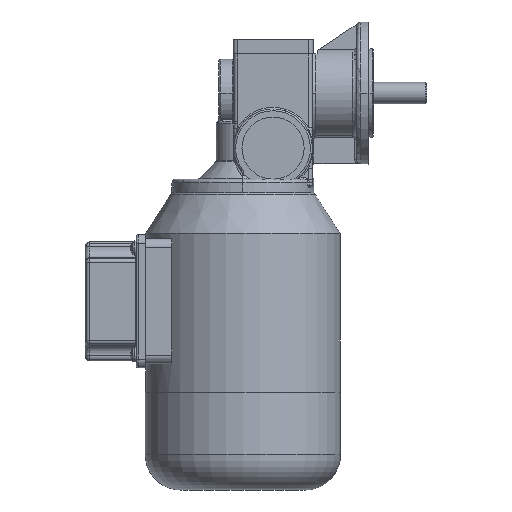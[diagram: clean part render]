
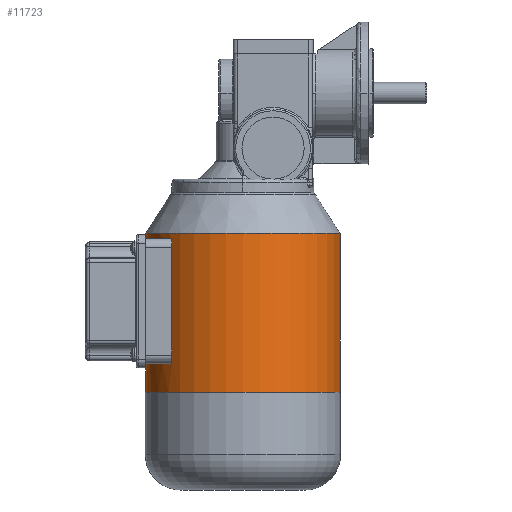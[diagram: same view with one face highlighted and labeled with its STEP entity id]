
A CAD part, front view. The second image highlights one B-rep face of the part: STEP entity #11723.
In plain terms, the highlighted cylindrical face has radius 54.75 mm (diameter 109.5 mm), a partial arc.
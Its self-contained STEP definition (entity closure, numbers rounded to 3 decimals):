
#204 = DIRECTION ( 'NONE',  ( -1., 0., 0. ) ) ;
#790 = CARTESIAN_POINT ( 'NONE',  ( 27.393, 37.384, -40. ) ) ;
#1568 = VERTEX_POINT ( 'NONE', #8307 ) ;
#1746 = EDGE_CURVE ( 'NONE', #3165, #19317, #4998, .T. ) ;
#1889 = CYLINDRICAL_SURFACE ( 'NONE', #28644, 54.75 ) ;
#2247 = ORIENTED_EDGE ( 'NONE', *, *, #28829, .T. ) ;
#3165 = VERTEX_POINT ( 'NONE', #22341 ) ;
#3228 = VERTEX_POINT ( 'NONE', #4831 ) ;
#4001 = AXIS2_PLACEMENT_3D ( 'NONE', #12275, #21180, #9676 ) ;
#4117 = DIRECTION ( 'NONE',  ( 0., 0., 1. ) ) ;
#4831 = CARTESIAN_POINT ( 'NONE',  ( 144.5, 0., -54.75 ) ) ;
#4998 = LINE ( 'NONE', #5146, #22268 ) ;
#5146 = CARTESIAN_POINT ( 'NONE',  ( 0., 0., -54.75 ) ) ;
#5555 = DIRECTION ( 'NONE',  ( 0., 0., -1. ) ) ;
#5817 = EDGE_CURVE ( 'NONE', #1568, #3228, #23574, .T. ) ;
#6432 = DIRECTION ( 'NONE',  ( -1., 0., 0. ) ) ;
#6711 = LINE ( 'NONE', #15735, #7302 ) ;
#6743 = ORIENTED_EDGE ( 'NONE', *, *, #9728, .F. ) ;
#6760 = CARTESIAN_POINT ( 'NONE',  ( 55., 0., 0. ) ) ;
#7302 = VECTOR ( 'NONE', #10944, 1000. ) ;
#7949 = CARTESIAN_POINT ( 'NONE',  ( 141.5, 37.384, -40. ) ) ;
#8307 = CARTESIAN_POINT ( 'NONE',  ( 144.5, 0., 54.75 ) ) ;
#8605 = DIRECTION ( 'NONE',  ( 0., 0., 1. ) ) ;
#9121 = CARTESIAN_POINT ( 'NONE',  ( 71., 37.384, -40. ) ) ;
#9620 = ORIENTED_EDGE ( 'NONE', *, *, #13728, .T. ) ;
#9676 = DIRECTION ( 'NONE',  ( 0., 0., 1. ) ) ;
#9728 = EDGE_CURVE ( 'NONE', #11709, #19317, #18828, .T. ) ;
#10309 = ORIENTED_EDGE ( 'NONE', *, *, #12197, .F. ) ;
#10653 = CARTESIAN_POINT ( 'NONE',  ( 55., 0., 54.75 ) ) ;
#10825 = CIRCLE ( 'NONE', #27114, 54.75 ) ;
#10828 = VERTEX_POINT ( 'NONE', #27388 ) ;
#10944 = DIRECTION ( 'NONE',  ( -1., 0., 0. ) ) ;
#11212 = CARTESIAN_POINT ( 'NONE',  ( 0., 0., 0. ) ) ;
#11226 = CIRCLE ( 'NONE', #12620, 54.75 ) ;
#11709 = VERTEX_POINT ( 'NONE', #10653 ) ;
#11723 = ADVANCED_FACE ( 'NONE', ( #13228 ), #1889, .T. ) ;
#12197 = EDGE_CURVE ( 'NONE', #1568, #11709, #24159, .T. ) ;
#12275 = CARTESIAN_POINT ( 'NONE',  ( 144.5, 0., 0. ) ) ;
#12620 = AXIS2_PLACEMENT_3D ( 'NONE', #17368, #6432, #15324 ) ;
#13228 = FACE_OUTER_BOUND ( 'NONE', #25100, .T. ) ;
#13728 = EDGE_CURVE ( 'NONE', #3228, #10828, #6711, .T. ) ;
#14041 = VECTOR ( 'NONE', #23114, 1000. ) ;
#14667 = VECTOR ( 'NONE', #204, 1000. ) ;
#15324 = DIRECTION ( 'NONE',  ( 0., -1., 0. ) ) ;
#15647 = DIRECTION ( 'NONE',  ( -1., 0., 0. ) ) ;
#15735 = CARTESIAN_POINT ( 'NONE',  ( 0., 0., -54.75 ) ) ;
#15961 = DIRECTION ( 'NONE',  ( -1., 0., 0. ) ) ;
#15981 = VERTEX_POINT ( 'NONE', #7949 ) ;
#17368 = CARTESIAN_POINT ( 'NONE',  ( 71., 0., 0. ) ) ;
#18020 = ORIENTED_EDGE ( 'NONE', *, *, #1746, .T. ) ;
#18828 = CIRCLE ( 'NONE', #24430, 54.75 ) ;
#19317 = VERTEX_POINT ( 'NONE', #24740 ) ;
#19864 = ORIENTED_EDGE ( 'NONE', *, *, #28664, .T. ) ;
#20214 = ORIENTED_EDGE ( 'NONE', *, *, #28466, .F. ) ;
#21023 = CARTESIAN_POINT ( 'NONE',  ( 141.5, 0., 0. ) ) ;
#21180 = DIRECTION ( 'NONE',  ( -1., 0., 0. ) ) ;
#22137 = DIRECTION ( 'NONE',  ( -1., 0., 0. ) ) ;
#22268 = VECTOR ( 'NONE', #15961, 1000. ) ;
#22341 = CARTESIAN_POINT ( 'NONE',  ( 71., 0., -54.75 ) ) ;
#23114 = DIRECTION ( 'NONE',  ( 1., 0., 0. ) ) ;
#23574 = CIRCLE ( 'NONE', #4001, 54.75 ) ;
#24159 = LINE ( 'NONE', #28269, #14667 ) ;
#24430 = AXIS2_PLACEMENT_3D ( 'NONE', #6760, #15647, #4117 ) ;
#24740 = CARTESIAN_POINT ( 'NONE',  ( 55., 0., -54.75 ) ) ;
#25100 = EDGE_LOOP ( 'NONE', ( #27212, #9620, #19864, #20214, #2247, #18020, #6743, #10309 ) ) ;
#25169 = LINE ( 'NONE', #790, #14041 ) ;
#25973 = VERTEX_POINT ( 'NONE', #9121 ) ;
#27114 = AXIS2_PLACEMENT_3D ( 'NONE', #21023, #28185, #5555 ) ;
#27212 = ORIENTED_EDGE ( 'NONE', *, *, #5817, .T. ) ;
#27388 = CARTESIAN_POINT ( 'NONE',  ( 141.5, 0., -54.75 ) ) ;
#28185 = DIRECTION ( 'NONE',  ( 1., 0., 0. ) ) ;
#28269 = CARTESIAN_POINT ( 'NONE',  ( 0., 0., 54.75 ) ) ;
#28466 = EDGE_CURVE ( 'NONE', #25973, #15981, #25169, .T. ) ;
#28644 = AXIS2_PLACEMENT_3D ( 'NONE', #11212, #22137, #8605 ) ;
#28664 = EDGE_CURVE ( 'NONE', #10828, #15981, #10825, .T. ) ;
#28829 = EDGE_CURVE ( 'NONE', #25973, #3165, #11226, .T. ) ;
